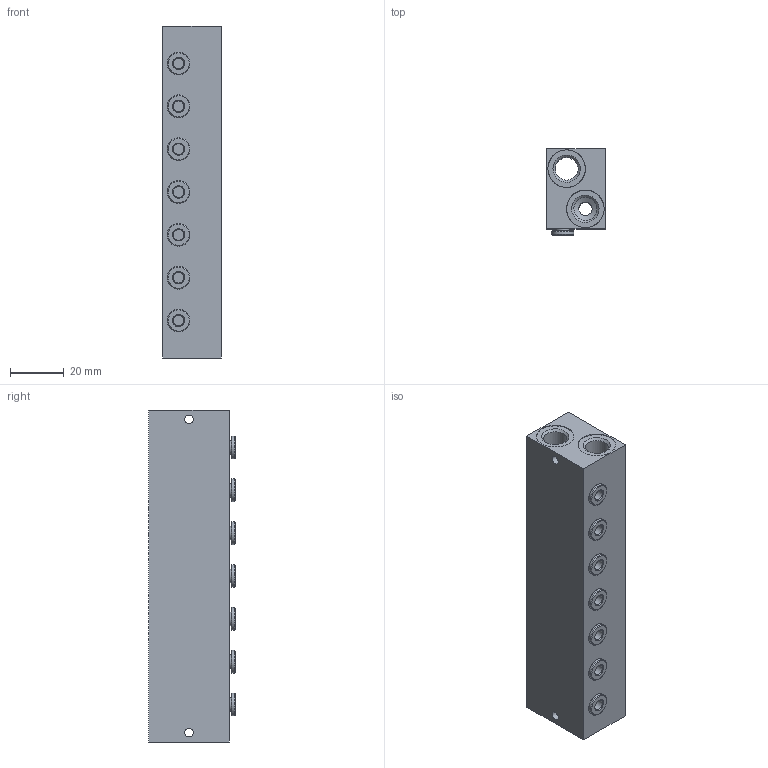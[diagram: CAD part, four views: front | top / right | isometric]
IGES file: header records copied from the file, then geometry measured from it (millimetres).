
Global section: file name: 354_07; native system: Autodesk Inventor 2014; preprocessor: unknown; author: R.Rivoltella; organization: Pneumax S.p.A.; date: 20161003.105222; units: millimetre
Bounding box: 22 x 32.25 x 124 mm (x, y, z)
Volume: 69952.7 mm3; surface area: 22556.5 mm2
Topology: 1 solids, 1 shells, 135 faces, 388 edges, 282 vertices
Faces by surface type: bspline 135
